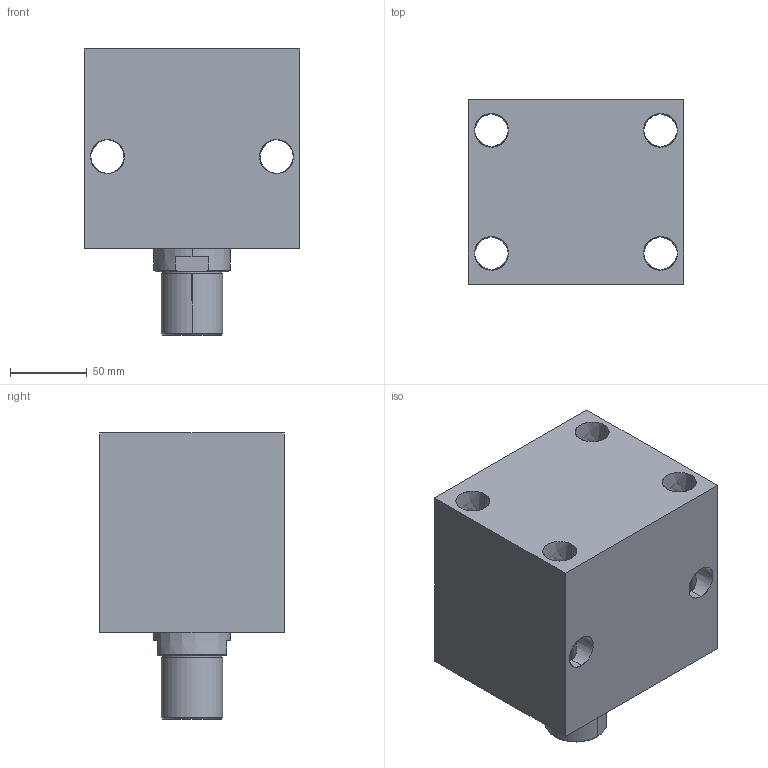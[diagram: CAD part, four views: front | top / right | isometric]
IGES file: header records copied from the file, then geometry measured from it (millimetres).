
Start section: SolidWorks IGES file using analytic representation for surfaces
Global section: file name: D:\karuppas\Clasp\3D model\Block cylinder B01C-Male thread - Copy\B01C-850M\Block cylinder B01C-850M.IGS; native system: SolidWorks 2017; preprocessor: SolidWorks 2017; author: pc; date: 220709.234906; units: millimetre
Bounding box: 140 x 120 x 186 mm (x, y, z)
Surface area: 180455.3 mm2 (no closed solid volume)
Topology: 0 solids, 0 shells, 363 faces, 5732 edges, 5728 vertices
Faces by surface type: bspline 309, revolution 54
